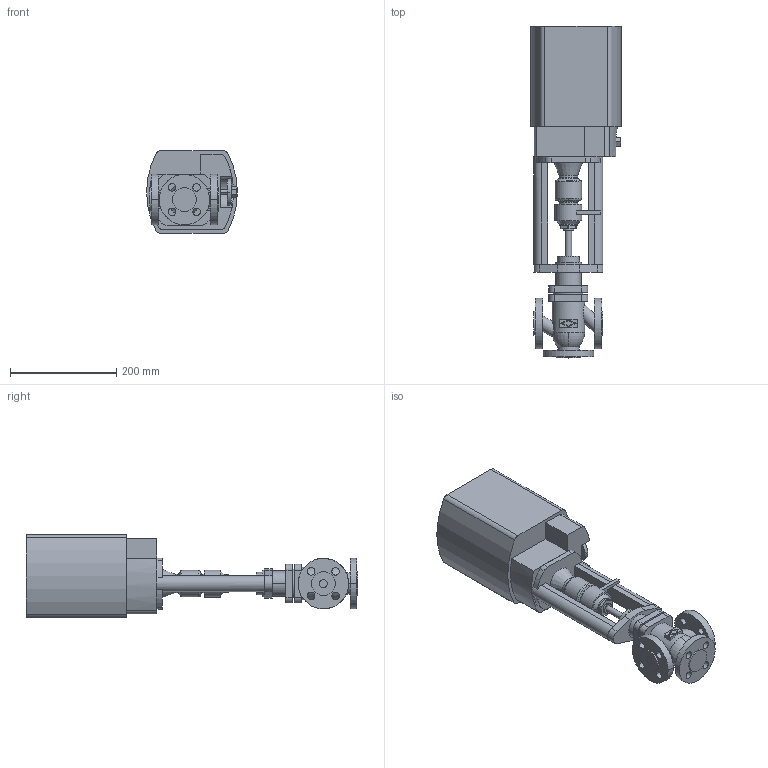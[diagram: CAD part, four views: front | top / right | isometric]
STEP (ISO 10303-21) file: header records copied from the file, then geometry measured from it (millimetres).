
FILE_DESCRIPTION( ( '' ), '1' );
FILE_NAME( 'F:/DE-SHS/TB/OR/04-Sonstiges/daten/files_3d/450-PREMIO-Plus-2G/c000006506.stp', '2017-02-22T12:47:19', ( '' ), ( '' ), ' ', ' ', ' ' );
FILE_SCHEMA( ( 'CONFIG_CONTROL_DESIGN' ) );
Length unit declared in the file: millimetre
Products named in the file (2): 1; 2
Bounding box: 170.7 x 624 x 156 mm (x, y, z)
Volume: 6993828.9 mm3; surface area: 379922.6 mm2
Topology: 2 solids, 2 shells, 250 faces, 643 edges, 425 vertices
Faces by surface type: cylinder 118, plane 114, torus 10, cone 8
Entity records: 8175 total; most frequent: CARTESIAN_POINT 1667, DIRECTION 1433, ORIENTED_EDGE 1286, EDGE_CURVE 643, AXIS2_PLACEMENT_3D 551, VERTEX_POINT 425, LINE 331, VECTOR 331
